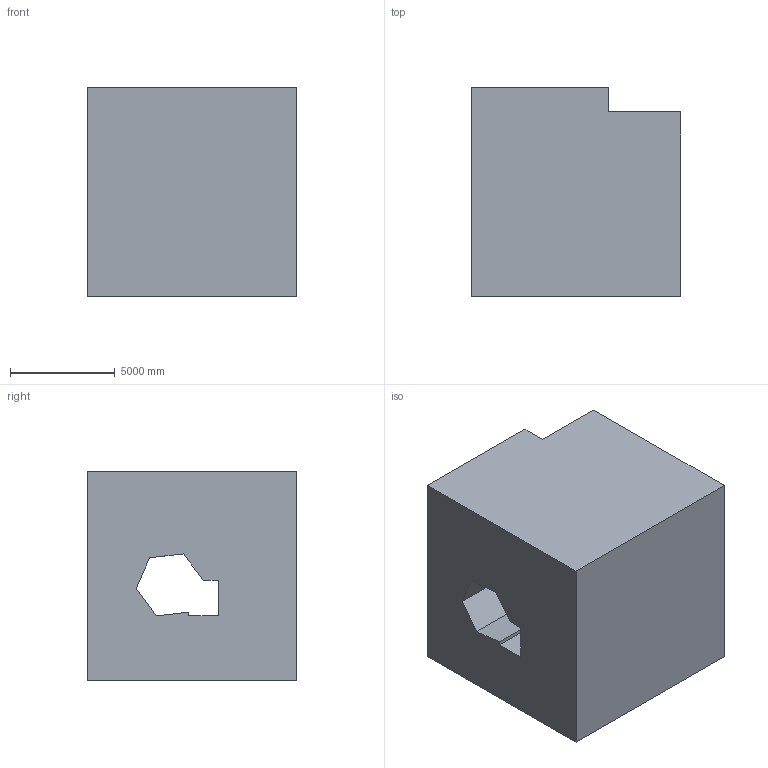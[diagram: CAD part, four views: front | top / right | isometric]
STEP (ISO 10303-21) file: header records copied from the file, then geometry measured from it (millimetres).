
FILE_DESCRIPTION (( 'STEP AP203' ), '1' );
FILE_NAME ('139.STEP', '2022-09-06T13:22:39', ( 'user' ), ( '' ), 'SwSTEP 2.0', 'SolidWorks 2021', '' );
FILE_SCHEMA (( 'CONFIG_CONTROL_DESIGN' ));
Length unit declared in the file: centimetre
Products named in the file (1): 139
Bounding box: 10000 x 10000 x 10000 mm (x, y, z)
Volume: 829374002899 mm3; surface area: 676387055.6 mm2
Topology: 1 solids, 1 shells, 20 faces, 57 edges, 38 vertices
Faces by surface type: plane 19, cylinder 1
Entity records: 724 total; most frequent: CARTESIAN_POINT 116, ORIENTED_EDGE 114, DIRECTION 101, EDGE_CURVE 57, VECTOR 55, LINE 55, VERTEX_POINT 38, AXIS2_PLACEMENT_3D 23
